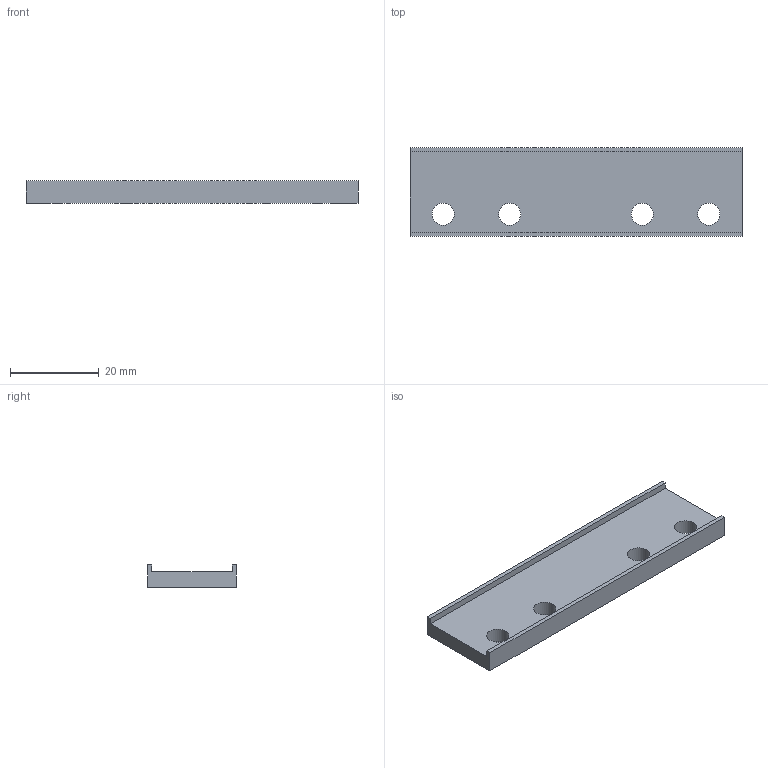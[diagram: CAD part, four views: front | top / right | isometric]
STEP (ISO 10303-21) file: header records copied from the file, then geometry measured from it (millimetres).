
FILE_DESCRIPTION(/* description */ ('CONNECTION STRIP FOR F-PROFILE 300-3065'),/* implementation_level */ '2;1');
FILE_NAME(/* name */ '\\carryline.intra\privat\users\mathias\Desktop\Tillfälliga filer\300-3064.stp',/* time_stamp */ '2018-11-30T09:55:06+01:00',/* author */ ('MD'),/* organization */ ('CARRYLINE'),/* preprocessor_version */ 'ST-DEVELOPER v17',/* originating_system */ 'Autodesk Inventor 2018',/* authorisation */ '');
FILE_SCHEMA (('AUTOMOTIVE_DESIGN { 1 0 10303 214 3 1 1 }'));
Length unit declared in the file: millimetre
Products named in the file (1): 300-3064
Bounding box: 75 x 20 x 5 mm (x, y, z)
Volume: 5188.9 mm3; surface area: 4183.5 mm2
Topology: 1 solids, 1 shells, 14 faces, 40 edges, 28 vertices
Faces by surface type: plane 10, cylinder 4
Full cylindrical faces by diameter (mm): 5 x4
Entity records: 523 total; most frequent: CARTESIAN_POINT 83, DIRECTION 82, ORIENTED_EDGE 80, EDGE_CURVE 40, LINE 28, VECTOR 28, VERTEX_POINT 28, AXIS2_PLACEMENT_3D 27
